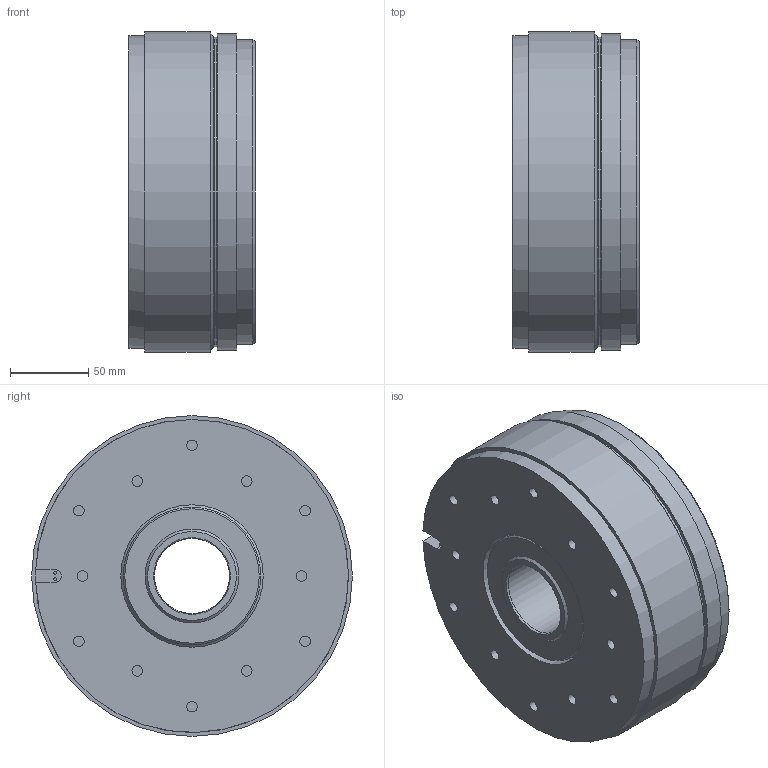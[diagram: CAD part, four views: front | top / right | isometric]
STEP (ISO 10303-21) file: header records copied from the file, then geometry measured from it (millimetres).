
FILE_DESCRIPTION (( 'STEP AP203' ), '1' );
FILE_NAME ('86_61121P00_0001_Idx_A.STEP', '2025-02-14T09:40:11', ( '' ), ( '' ), 'SwSTEP 2.0', 'SolidWorks 2022', '' );
FILE_SCHEMA (( 'CONFIG_CONTROL_DESIGN' ));
Length unit declared in the file: millimetre
Products named in the file (1): 86_61121P00_0001_Idx_A
Bounding box: 80.97 x 205 x 205 mm (x, y, z)
Volume: 2349317.6 mm3; surface area: 217611.2 mm2
Topology: 2 solids, 2 shells, 80 faces, 137 edges, 87 vertices
Faces by surface type: cylinder 34, plane 33, cone 8, torus 5
Full cylindrical faces by diameter (mm): 1.8 x2, 6.8 x12, 10.2 x3, 48 x1, 48.2 x1, 80 x1, 88 x1, 91 x2, 97 x1, 100 x1, 103 x1, 116 x1, 168.2 x1, 195 x1, 198 x1, 200 x1, 202 x1, 205 x1
Entity records: 2207 total; most frequent: CARTESIAN_POINT 707, DIRECTION 322, ORIENTED_EDGE 180, EDGE_LOOP 162, AXIS2_PLACEMENT_3D 157, FACE_OUTER_BOUND 118, EDGE_CURVE 90, VERTEX_POINT 86
